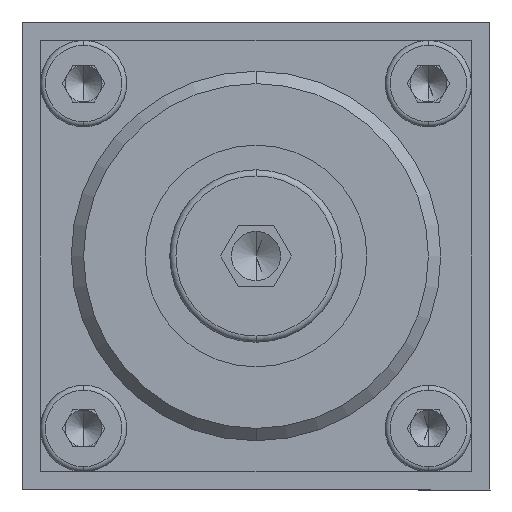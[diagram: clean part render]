
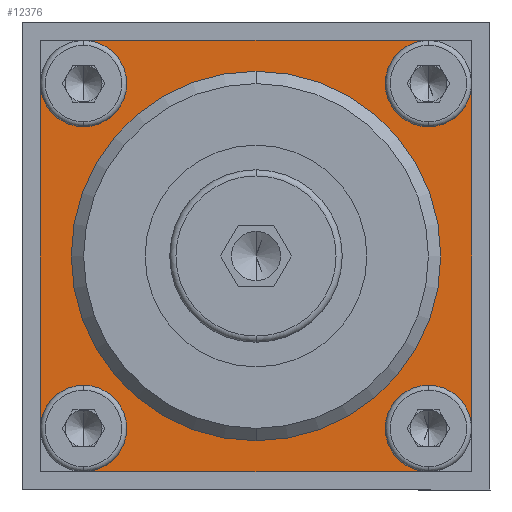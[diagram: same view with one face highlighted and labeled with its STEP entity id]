
A CAD part, left-side view. The second image highlights one B-rep face of the part: STEP entity #12376.
In plain terms, the highlighted planar face has unit normal (-1, 0, 0).
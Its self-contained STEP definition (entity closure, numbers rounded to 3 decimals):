
#42 = AXIS2_PLACEMENT_3D ( 'NONE', #3412, #14688, #5046 ) ;
#87 = CIRCLE ( 'NONE', #9293, 3.5 ) ;
#150 = DIRECTION ( 'NONE',  ( -1., 0., 0. ) ) ;
#579 = AXIS2_PLACEMENT_3D ( 'NONE', #6975, #18188, #8596 ) ;
#632 = CARTESIAN_POINT ( 'NONE',  ( -6., -14., 14. ) ) ;
#683 = CARTESIAN_POINT ( 'NONE',  ( -6., -14., -10.5 ) ) ;
#788 = LINE ( 'NONE', #13698, #7279 ) ;
#840 = CIRCLE ( 'NONE', #8109, 3.5 ) ;
#879 = DIRECTION ( 'NONE',  ( 0., 0., 1. ) ) ;
#1059 = EDGE_CURVE ( 'NONE', #16894, #16512, #840, .T. ) ;
#1279 = DIRECTION ( 'NONE',  ( -1., 0., 0. ) ) ;
#1360 = AXIS2_PLACEMENT_3D ( 'NONE', #13135, #3459, #14723 ) ;
#1396 = CIRCLE ( 'NONE', #20515, 3.5 ) ;
#1433 = AXIS2_PLACEMENT_3D ( 'NONE', #632, #11907, #2249 ) ;
#1531 = CARTESIAN_POINT ( 'NONE',  ( -6., 17.5, -17.5 ) ) ;
#1622 = CARTESIAN_POINT ( 'NONE',  ( -6., 0., 0. ) ) ;
#1747 = CIRCLE ( 'NONE', #2856, 3.5 ) ;
#1983 = EDGE_CURVE ( 'NONE', #16894, #3651, #788, .T. ) ;
#2249 = DIRECTION ( 'NONE',  ( 0., 0., 1. ) ) ;
#2259 = CARTESIAN_POINT ( 'NONE',  ( -6., 14., 14. ) ) ;
#2856 = AXIS2_PLACEMENT_3D ( 'NONE', #20026, #10509, #879 ) ;
#2974 = ORIENTED_EDGE ( 'NONE', *, *, #17274, .F. ) ;
#3129 = CARTESIAN_POINT ( 'NONE',  ( -6., -17.5, 14. ) ) ;
#3271 = DIRECTION ( 'NONE',  ( 0., 0., 1. ) ) ;
#3412 = CARTESIAN_POINT ( 'NONE',  ( -6., -14., -14. ) ) ;
#3459 = DIRECTION ( 'NONE',  ( -1., 0., 0. ) ) ;
#3573 = ORIENTED_EDGE ( 'NONE', *, *, #16484, .F. ) ;
#3651 = VERTEX_POINT ( 'NONE', #3129 ) ;
#3891 = DIRECTION ( 'NONE',  ( 0., 0., 1. ) ) ;
#4134 = CIRCLE ( 'NONE', #11143, 15. ) ;
#4167 = EDGE_CURVE ( 'NONE', #13400, #12511, #14100, .T. ) ;
#4344 = ORIENTED_EDGE ( 'NONE', *, *, #14157, .F. ) ;
#4611 = LINE ( 'NONE', #1531, #20548 ) ;
#5046 = DIRECTION ( 'NONE',  ( 0., 0., 1. ) ) ;
#5280 = ORIENTED_EDGE ( 'NONE', *, *, #12944, .F. ) ;
#5286 = AXIS2_PLACEMENT_3D ( 'NONE', #2259, #13518, #3891 ) ;
#5803 = CARTESIAN_POINT ( 'NONE',  ( -6., -17.5, 17.5 ) ) ;
#6223 = CARTESIAN_POINT ( 'NONE',  ( -6., -14., -17.5 ) ) ;
#6486 = EDGE_LOOP ( 'NONE', ( #3573, #2974 ) ) ;
#6765 = CIRCLE ( 'NONE', #42, 3.5 ) ;
#6975 = CARTESIAN_POINT ( 'NONE',  ( -6., 0., 0. ) ) ;
#7179 = VERTEX_POINT ( 'NONE', #10183 ) ;
#7279 = VECTOR ( 'NONE', #13270, 1000. ) ;
#8099 = CARTESIAN_POINT ( 'NONE',  ( -6., 14., 17.5 ) ) ;
#8109 = AXIS2_PLACEMENT_3D ( 'NONE', #8777, #8798, #8804 ) ;
#8167 = LINE ( 'NONE', #16010, #16231 ) ;
#8539 = VERTEX_POINT ( 'NONE', #11135 ) ;
#8596 = DIRECTION ( 'NONE',  ( 0., 0., 1. ) ) ;
#8777 = CARTESIAN_POINT ( 'NONE',  ( -6., -14., -14. ) ) ;
#8798 = DIRECTION ( 'NONE',  ( -1., 0., 0. ) ) ;
#8804 = DIRECTION ( 'NONE',  ( 0., 0., 1. ) ) ;
#8819 = AXIS2_PLACEMENT_3D ( 'NONE', #10928, #1279, #12544 ) ;
#8916 = CARTESIAN_POINT ( 'NONE',  ( -6., 14., 10.5 ) ) ;
#8924 = EDGE_CURVE ( 'NONE', #13400, #13522, #12615, .T. ) ;
#8979 = ORIENTED_EDGE ( 'NONE', *, *, #16110, .F. ) ;
#9245 = DIRECTION ( 'NONE',  ( -1., 0., 0. ) ) ;
#9293 = AXIS2_PLACEMENT_3D ( 'NONE', #18837, #9245, #20390 ) ;
#9509 = ORIENTED_EDGE ( 'NONE', *, *, #16246, .T. ) ;
#9748 = CARTESIAN_POINT ( 'NONE',  ( -6., 14., -14. ) ) ;
#9863 = CARTESIAN_POINT ( 'NONE',  ( -6., -17.5, -14. ) ) ;
#10031 = ORIENTED_EDGE ( 'NONE', *, *, #12492, .F. ) ;
#10161 = VERTEX_POINT ( 'NONE', #6223 ) ;
#10183 = CARTESIAN_POINT ( 'NONE',  ( -6., 17.5, -14. ) ) ;
#10509 = DIRECTION ( 'NONE',  ( -1., 0., 0. ) ) ;
#10928 = CARTESIAN_POINT ( 'NONE',  ( -6., -14., 14. ) ) ;
#11111 = CARTESIAN_POINT ( 'NONE',  ( -6., -14., 17.5 ) ) ;
#11131 = DIRECTION ( 'NONE',  ( 0., 0., -1. ) ) ;
#11135 = CARTESIAN_POINT ( 'NONE',  ( -6., 14., -17.5 ) ) ;
#11143 = AXIS2_PLACEMENT_3D ( 'NONE', #1622, #12925, #3271 ) ;
#11415 = DIRECTION ( 'NONE',  ( 0., 0., 1. ) ) ;
#11451 = VERTEX_POINT ( 'NONE', #11606 ) ;
#11606 = CARTESIAN_POINT ( 'NONE',  ( -6., 0., -15. ) ) ;
#11868 = CIRCLE ( 'NONE', #1433, 3.5 ) ;
#11907 = DIRECTION ( 'NONE',  ( -1., 0., 0. ) ) ;
#11966 = EDGE_CURVE ( 'NONE', #16512, #10161, #6765, .T. ) ;
#12099 = EDGE_CURVE ( 'NONE', #13769, #13522, #1747, .T. ) ;
#12312 = FACE_OUTER_BOUND ( 'NONE', #19717, .T. ) ;
#12376 = ADVANCED_FACE ( 'NONE', ( #12312, #20214 ), #14668, .T. ) ;
#12492 = EDGE_CURVE ( 'NONE', #17805, #13769, #17505, .T. ) ;
#12511 = VERTEX_POINT ( 'NONE', #15156 ) ;
#12544 = DIRECTION ( 'NONE',  ( 0., 0., 1. ) ) ;
#12615 = LINE ( 'NONE', #5803, #16844 ) ;
#12810 = DIRECTION ( 'NONE',  ( 0., -1., 0. ) ) ;
#12892 = CIRCLE ( 'NONE', #579, 15. ) ;
#12925 = DIRECTION ( 'NONE',  ( -1., 0., 0. ) ) ;
#12944 = EDGE_CURVE ( 'NONE', #8539, #17977, #1396, .T. ) ;
#13058 = EDGE_CURVE ( 'NONE', #8539, #10161, #8167, .T. ) ;
#13135 = CARTESIAN_POINT ( 'NONE',  ( -6., 0., 0. ) ) ;
#13270 = DIRECTION ( 'NONE',  ( 0., 0., 1. ) ) ;
#13356 = CARTESIAN_POINT ( 'NONE',  ( -6., 0., 15. ) ) ;
#13400 = VERTEX_POINT ( 'NONE', #11111 ) ;
#13518 = DIRECTION ( 'NONE',  ( -1., 0., 0. ) ) ;
#13522 = VERTEX_POINT ( 'NONE', #8099 ) ;
#13595 = ORIENTED_EDGE ( 'NONE', *, *, #1983, .T. ) ;
#13698 = CARTESIAN_POINT ( 'NONE',  ( -6., -17.5, -17.5 ) ) ;
#13769 = VERTEX_POINT ( 'NONE', #8916 ) ;
#14100 = CIRCLE ( 'NONE', #8819, 3.5 ) ;
#14157 = EDGE_CURVE ( 'NONE', #12511, #3651, #11868, .T. ) ;
#14278 = ORIENTED_EDGE ( 'NONE', *, *, #1059, .F. ) ;
#14521 = CARTESIAN_POINT ( 'NONE',  ( -6., 14., -10.5 ) ) ;
#14668 = PLANE ( 'NONE',  #1360 ) ;
#14688 = DIRECTION ( 'NONE',  ( -1., 0., 0. ) ) ;
#14723 = DIRECTION ( 'NONE',  ( 0., 0., 1. ) ) ;
#15059 = ORIENTED_EDGE ( 'NONE', *, *, #11966, .F. ) ;
#15156 = CARTESIAN_POINT ( 'NONE',  ( -6., -14., 10.5 ) ) ;
#15468 = DIRECTION ( 'NONE',  ( 0., 1., 0. ) ) ;
#16010 = CARTESIAN_POINT ( 'NONE',  ( -6., -17.5, -17.5 ) ) ;
#16110 = EDGE_CURVE ( 'NONE', #17977, #7179, #87, .T. ) ;
#16231 = VECTOR ( 'NONE', #12810, 1000. ) ;
#16246 = EDGE_CURVE ( 'NONE', #17805, #7179, #4611, .T. ) ;
#16484 = EDGE_CURVE ( 'NONE', #19194, #11451, #12892, .T. ) ;
#16512 = VERTEX_POINT ( 'NONE', #683 ) ;
#16844 = VECTOR ( 'NONE', #15468, 1000. ) ;
#16894 = VERTEX_POINT ( 'NONE', #9863 ) ;
#17274 = EDGE_CURVE ( 'NONE', #11451, #19194, #4134, .T. ) ;
#17505 = CIRCLE ( 'NONE', #5286, 3.5 ) ;
#17751 = ORIENTED_EDGE ( 'NONE', *, *, #12099, .F. ) ;
#17805 = VERTEX_POINT ( 'NONE', #18840 ) ;
#17977 = VERTEX_POINT ( 'NONE', #14521 ) ;
#18188 = DIRECTION ( 'NONE',  ( -1., 0., 0. ) ) ;
#18520 = ORIENTED_EDGE ( 'NONE', *, *, #8924, .T. ) ;
#18837 = CARTESIAN_POINT ( 'NONE',  ( -6., 14., -14. ) ) ;
#18840 = CARTESIAN_POINT ( 'NONE',  ( -6., 17.5, 14. ) ) ;
#19083 = ORIENTED_EDGE ( 'NONE', *, *, #13058, .T. ) ;
#19194 = VERTEX_POINT ( 'NONE', #13356 ) ;
#19717 = EDGE_LOOP ( 'NONE', ( #19972, #18520, #17751, #10031, #9509, #8979, #5280, #19083, #15059, #14278, #13595, #4344 ) ) ;
#19972 = ORIENTED_EDGE ( 'NONE', *, *, #4167, .F. ) ;
#20026 = CARTESIAN_POINT ( 'NONE',  ( -6., 14., 14. ) ) ;
#20214 = FACE_BOUND ( 'NONE', #6486, .T. ) ;
#20390 = DIRECTION ( 'NONE',  ( 0., 0., 1. ) ) ;
#20515 = AXIS2_PLACEMENT_3D ( 'NONE', #9748, #150, #11415 ) ;
#20548 = VECTOR ( 'NONE', #11131, 1000. ) ;
